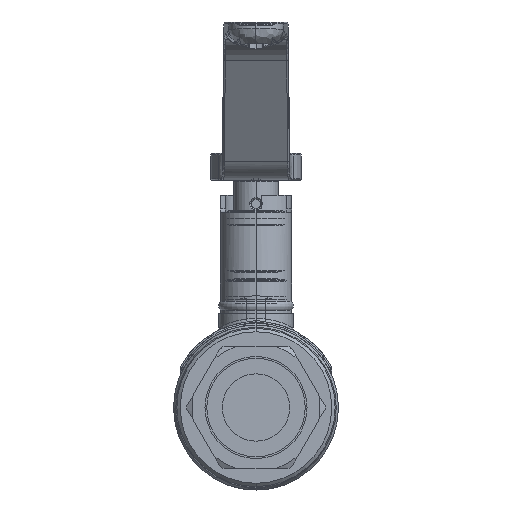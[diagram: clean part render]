
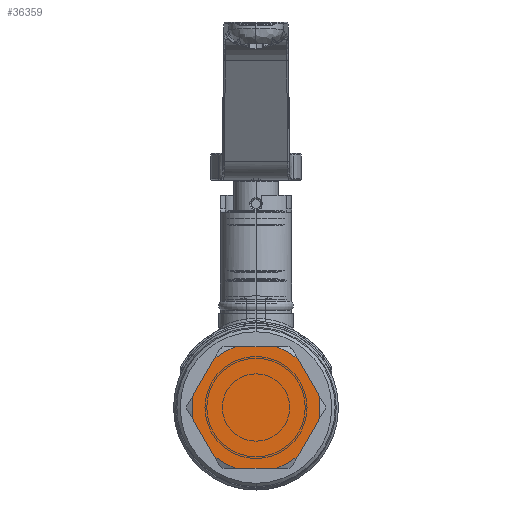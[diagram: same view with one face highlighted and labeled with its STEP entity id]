
A CAD part, left-side view. The second image highlights one B-rep face of the part: STEP entity #36359.
In plain terms, the highlighted planar face has unit normal (-1, 0, 0).
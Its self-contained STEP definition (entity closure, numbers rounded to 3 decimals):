
#12920=CARTESIAN_POINT('',(-56.,18.63,-3.732));
#12938=CARTESIAN_POINT('',(-56.,18.63,3.732));
#12940=CARTESIAN_POINT('',(-56.,0.,0.));
#12941=DIRECTION('',(-1.,0.,0.));
#12942=DIRECTION('',(0.,0.981,0.196));
#12943=AXIS2_PLACEMENT_3D('',#12940,#12941,#12942);
#12945=DIRECTION('',(0.,1.,0.));
#12946=VECTOR('',#12945,12.166);
#12947=CARTESIAN_POINT('',(-56.,-6.083,18.));
#12948=LINE('',#12947,#12946);
#12949=DIRECTION('',(0.,0.5,0.866));
#12950=VECTOR('',#12949,12.166);
#12951=CARTESIAN_POINT('',(-56.,-18.63,3.732));
#12952=LINE('',#12951,#12950);
#12953=DIRECTION('',(0.,0.5,-0.866));
#12954=VECTOR('',#12953,12.166);
#12955=CARTESIAN_POINT('',(-56.,-18.63,-3.732));
#12956=LINE('',#12955,#12954);
#12957=DIRECTION('',(0.,-1.,0.));
#12958=VECTOR('',#12957,12.166);
#12959=CARTESIAN_POINT('',(-56.,6.083,-18.));
#12960=LINE('',#12959,#12958);
#12961=DIRECTION('',(0.,-0.5,-0.866));
#12962=VECTOR('',#12961,12.166);
#12963=CARTESIAN_POINT('',(-56.,18.63,-3.732));
#12964=LINE('',#12963,#12962);
#12965=DIRECTION('',(0.,-0.5,0.866));
#12966=VECTOR('',#12965,12.166);
#12967=CARTESIAN_POINT('',(-56.,18.63,3.732));
#12968=LINE('',#12967,#12966);
#12969=CARTESIAN_POINT('',(-56.,12.547,14.268));
#12987=CARTESIAN_POINT('',(-56.,6.083,18.));
#12989=CARTESIAN_POINT('',(-56.,0.,0.));
#12990=DIRECTION('',(-1.,0.,0.));
#12991=DIRECTION('',(0.,0.32,0.947));
#12992=AXIS2_PLACEMENT_3D('',#12989,#12990,#12991);
#13002=CARTESIAN_POINT('',(-56.,-6.083,18.));
#13004=CARTESIAN_POINT('',(-56.,-12.547,14.268));
#13014=CARTESIAN_POINT('',(-56.,0.,0.));
#13015=DIRECTION('',(1.,0.,0.));
#13016=DIRECTION('',(0.,-0.32,0.947));
#13017=AXIS2_PLACEMENT_3D('',#13014,#13015,#13016);
#13040=CARTESIAN_POINT('',(-56.,-18.63,3.732));
#13042=CARTESIAN_POINT('',(-56.,-18.63,-3.732));
#13052=CARTESIAN_POINT('',(-56.,0.,0.));
#13053=DIRECTION('',(1.,0.,0.));
#13054=DIRECTION('',(0.,-0.981,0.196));
#13055=AXIS2_PLACEMENT_3D('',#13052,#13053,#13054);
#13057=CARTESIAN_POINT('',(-56.,-6.083,-18.));
#13067=CARTESIAN_POINT('',(-56.,0.,0.));
#13068=DIRECTION('',(1.,0.,0.));
#13069=DIRECTION('',(0.,-0.66,-0.751));
#13070=AXIS2_PLACEMENT_3D('',#13067,#13068,#13069);
#13080=CARTESIAN_POINT('',(-56.,-12.547,-14.268));
#13082=CARTESIAN_POINT('',(-56.,6.083,-18.));
#13100=CARTESIAN_POINT('',(-56.,12.547,-14.268));
#13102=CARTESIAN_POINT('',(-56.,0.,0.));
#13103=DIRECTION('',(-1.,0.,0.));
#13104=DIRECTION('',(0.,0.66,-0.751));
#13105=AXIS2_PLACEMENT_3D('',#13102,#13103,#13104);
#14532=VERTEX_POINT('',#13082);
#14533=VERTEX_POINT('',#12920);
#14534=VERTEX_POINT('',#13100);
#14535=VERTEX_POINT('',#12969);
#14536=VERTEX_POINT('',#12938);
#14537=VERTEX_POINT('',#12987);
#14568=VERTEX_POINT('',#13057);
#14569=VERTEX_POINT('',#13002);
#14570=VERTEX_POINT('',#13040);
#14571=VERTEX_POINT('',#13004);
#14572=VERTEX_POINT('',#13080);
#14573=VERTEX_POINT('',#13042);
#36335=CARTESIAN_POINT('',(-56.,0.,0.));
#36336=DIRECTION('',(-1.,0.,0.));
#36337=DIRECTION('',(0.,0.,-1.));
#36338=AXIS2_PLACEMENT_3D('',#36335,#36336,#36337);
#36339=PLANE('',#36338);
#36341=ORIENTED_EDGE('',*,*,#36340,.F.);
#36342=ORIENTED_EDGE('',*,*,#36118,.F.);
#36344=ORIENTED_EDGE('',*,*,#36343,.T.);
#36345=ORIENTED_EDGE('',*,*,#36148,.F.);
#36347=ORIENTED_EDGE('',*,*,#36346,.T.);
#36348=ORIENTED_EDGE('',*,*,#36198,.T.);
#36350=ORIENTED_EDGE('',*,*,#36349,.T.);
#36351=ORIENTED_EDGE('',*,*,#36234,.F.);
#36353=ORIENTED_EDGE('',*,*,#36352,.F.);
#36354=ORIENTED_EDGE('',*,*,#36284,.F.);
#36355=ORIENTED_EDGE('',*,*,#36330,.F.);
#36356=ORIENTED_EDGE('',*,*,#36077,.T.);
#36357=EDGE_LOOP('',(#36341,#36342,#36344,#36345,#36347,#36348,#36350,#36351,
#36353,#36354,#36355,#36356));
#36358=FACE_OUTER_BOUND('',#36357,.F.);
#36359=ADVANCED_FACE('',(#36358),#36339,.T.);
#12944=CIRCLE('',#12943,19.);
#12993=CIRCLE('',#12992,19.);
#13018=CIRCLE('',#13017,19.);
#13056=CIRCLE('',#13055,19.);
#13071=CIRCLE('',#13070,19.);
#13106=CIRCLE('',#13105,19.);
#36077=EDGE_CURVE('',#14536,#14535,#12968,.T.);
#36118=EDGE_CURVE('',#14569,#14537,#12948,.T.);
#36148=EDGE_CURVE('',#14570,#14571,#12952,.T.);
#36198=EDGE_CURVE('',#14573,#14572,#12956,.T.);
#36234=EDGE_CURVE('',#14532,#14568,#12960,.T.);
#36284=EDGE_CURVE('',#14533,#14534,#12964,.T.);
#36330=EDGE_CURVE('',#14536,#14533,#12944,.T.);
#36340=EDGE_CURVE('',#14537,#14535,#12993,.T.);
#36343=EDGE_CURVE('',#14569,#14571,#13018,.T.);
#36346=EDGE_CURVE('',#14570,#14573,#13056,.T.);
#36349=EDGE_CURVE('',#14572,#14568,#13071,.T.);
#36352=EDGE_CURVE('',#14534,#14532,#13106,.T.);
